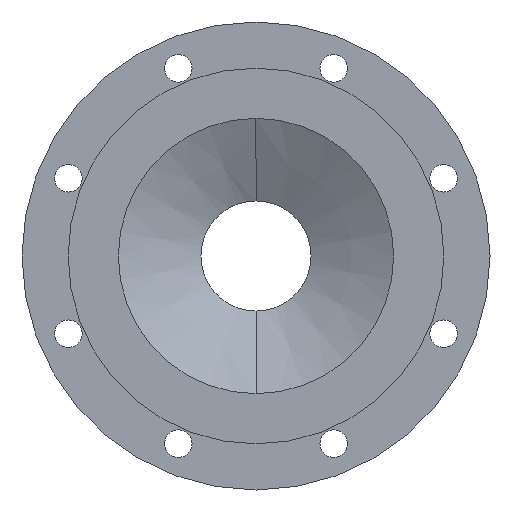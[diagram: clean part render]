
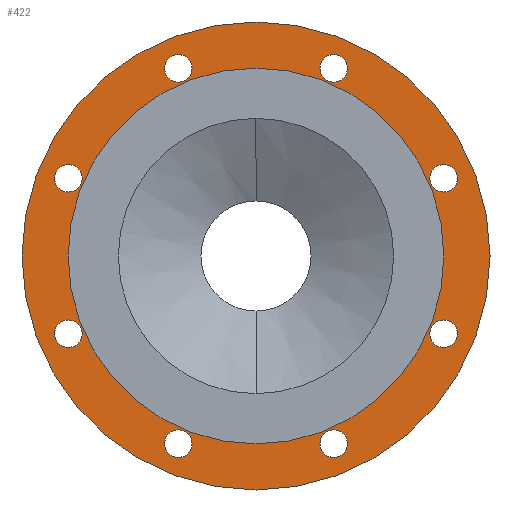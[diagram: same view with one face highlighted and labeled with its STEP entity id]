
A CAD part, left-side view. The second image highlights one B-rep face of the part: STEP entity #422.
In plain terms, the highlighted planar face has unit normal (-1, 0, 0).
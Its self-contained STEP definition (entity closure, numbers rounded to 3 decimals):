
#422=ADVANCED_FACE('',(#823,#824,#825,#826,#827,#828,#829,#830,#831,#832),#833,.F.);
#823=FACE_BOUND('',#1344,.T.);
#824=FACE_BOUND('',#1345,.T.);
#825=FACE_BOUND('',#1346,.T.);
#826=FACE_BOUND('',#1347,.T.);
#827=FACE_BOUND('',#1348,.T.);
#828=FACE_BOUND('',#1349,.T.);
#829=FACE_BOUND('',#1350,.T.);
#830=FACE_BOUND('',#1351,.T.);
#831=FACE_BOUND('',#1352,.T.);
#832=FACE_OUTER_BOUND('',#1353,.T.);
#833=PLANE('',#1354);
#1344=EDGE_LOOP('',(#1965,#1966));
#1345=EDGE_LOOP('',(#1967,#1968));
#1346=EDGE_LOOP('',(#1969,#1970));
#1347=EDGE_LOOP('',(#1971,#1972));
#1348=EDGE_LOOP('',(#1973,#1974));
#1349=EDGE_LOOP('',(#1975,#1976));
#1350=EDGE_LOOP('',(#1977,#1978));
#1351=EDGE_LOOP('',(#1979,#1980));
#1352=EDGE_LOOP('',(#1981,#1982));
#1353=EDGE_LOOP('',(#1983,#1984));
#1354=AXIS2_PLACEMENT_3D('',#1985,#1986,#1987);
#1965=ORIENTED_EDGE('',*,*,#2886,.T.);
#1966=ORIENTED_EDGE('',*,*,#2888,.T.);
#1967=ORIENTED_EDGE('',*,*,#2876,.T.);
#1968=ORIENTED_EDGE('',*,*,#2889,.T.);
#1969=ORIENTED_EDGE('',*,*,#2890,.T.);
#1970=ORIENTED_EDGE('',*,*,#2891,.T.);
#1971=ORIENTED_EDGE('',*,*,#2698,.T.);
#1972=ORIENTED_EDGE('',*,*,#2892,.T.);
#1973=ORIENTED_EDGE('',*,*,#2862,.T.);
#1974=ORIENTED_EDGE('',*,*,#2893,.T.);
#1975=ORIENTED_EDGE('',*,*,#2894,.T.);
#1976=ORIENTED_EDGE('',*,*,#2895,.T.);
#1977=ORIENTED_EDGE('',*,*,#2896,.T.);
#1978=ORIENTED_EDGE('',*,*,#2897,.T.);
#1979=ORIENTED_EDGE('',*,*,#2898,.T.);
#1980=ORIENTED_EDGE('',*,*,#2899,.T.);
#1981=ORIENTED_EDGE('',*,*,#2900,.T.);
#1982=ORIENTED_EDGE('',*,*,#2901,.T.);
#1983=ORIENTED_EDGE('',*,*,#2902,.F.);
#1984=ORIENTED_EDGE('',*,*,#2724,.F.);
#1985=CARTESIAN_POINT('',(1.0,0.0,0.));
#1986=DIRECTION('',(1.0,0.0,0.));
#1987=DIRECTION('',(0.,0.0,-1.0));
#2698=EDGE_CURVE('',#3111,#3115,#3117,.T.);
#2724=EDGE_CURVE('',#3161,#3156,#3163,.T.);
#2862=EDGE_CURVE('',#3384,#3388,#3390,.T.);
#2876=EDGE_CURVE('',#3406,#3410,#3412,.T.);
#2886=EDGE_CURVE('',#3422,#3426,#3428,.T.);
#2888=EDGE_CURVE('',#3426,#3422,#3430,.T.);
#2889=EDGE_CURVE('',#3410,#3406,#3431,.T.);
#2890=EDGE_CURVE('',#3432,#3433,#3434,.T.);
#2891=EDGE_CURVE('',#3433,#3432,#3435,.T.);
#2892=EDGE_CURVE('',#3115,#3111,#3436,.T.);
#2893=EDGE_CURVE('',#3388,#3384,#3437,.T.);
#2894=EDGE_CURVE('',#3438,#3439,#3440,.T.);
#2895=EDGE_CURVE('',#3439,#3438,#3441,.T.);
#2896=EDGE_CURVE('',#3442,#3443,#3444,.T.);
#2897=EDGE_CURVE('',#3443,#3442,#3445,.T.);
#2898=EDGE_CURVE('',#3446,#3447,#3448,.T.);
#2899=EDGE_CURVE('',#3447,#3446,#3449,.T.);
#2900=EDGE_CURVE('',#3450,#3451,#3452,.T.);
#2901=EDGE_CURVE('',#3451,#3450,#3453,.T.);
#2902=EDGE_CURVE('',#3156,#3161,#3454,.T.);
#3111=VERTEX_POINT('',#3706);
#3115=VERTEX_POINT('',#3711);
#3117=CIRCLE('',#3714,10.0);
#3156=VERTEX_POINT('',#3765);
#3161=VERTEX_POINT('',#3771);
#3163=CIRCLE('',#3774,170.0);
#3384=VERTEX_POINT('',#4067);
#3388=VERTEX_POINT('',#4072);
#3390=CIRCLE('',#4075,10.0);
#3406=VERTEX_POINT('',#4095);
#3410=VERTEX_POINT('',#4100);
#3412=CIRCLE('',#4103,10.0);
#3422=VERTEX_POINT('',#4116);
#3426=VERTEX_POINT('',#4121);
#3428=CIRCLE('',#4124,10.0);
#3430=CIRCLE('',#4126,10.0);
#3431=CIRCLE('',#4127,10.0);
#3432=VERTEX_POINT('',#4128);
#3433=VERTEX_POINT('',#4129);
#3434=CIRCLE('',#4130,10.0);
#3435=CIRCLE('',#4131,10.0);
#3436=CIRCLE('',#4132,10.0);
#3437=CIRCLE('',#4133,10.0);
#3438=VERTEX_POINT('',#4134);
#3439=VERTEX_POINT('',#4135);
#3440=CIRCLE('',#4136,10.0);
#3441=CIRCLE('',#4137,10.0);
#3442=VERTEX_POINT('',#4138);
#3443=VERTEX_POINT('',#4139);
#3444=CIRCLE('',#4140,10.0);
#3445=CIRCLE('',#4141,10.0);
#3446=VERTEX_POINT('',#4142);
#3447=VERTEX_POINT('',#4143);
#3448=CIRCLE('',#4144,10.0);
#3449=CIRCLE('',#4145,10.0);
#3450=VERTEX_POINT('',#4146);
#3451=VERTEX_POINT('',#4147);
#3452=CIRCLE('',#4148,136.5);
#3453=CIRCLE('',#4149,136.5);
#3454=CIRCLE('',#4150,170.0);
#3706=CARTESIAN_POINT('',(1.0,-56.446,126.272));
#3711=CARTESIAN_POINT('',(1.,-56.446,146.272));
#3714=AXIS2_PLACEMENT_3D('',#4490,#4491,#4492);
#3765=CARTESIAN_POINT('',(1.,0.0,-170.0));
#3771=CARTESIAN_POINT('',(1.,0.,170.0));
#3774=AXIS2_PLACEMENT_3D('',#4522,#4523,#4524);
#4067=CARTESIAN_POINT('',(1.0,136.272,46.446));
#4072=CARTESIAN_POINT('',(1.,136.272,66.446));
#4075=AXIS2_PLACEMENT_3D('',#4680,#4681,#4682);
#4095=CARTESIAN_POINT('',(1.0,56.446,-146.272));
#4100=CARTESIAN_POINT('',(1.,56.446,-126.272));
#4103=AXIS2_PLACEMENT_3D('',#4698,#4699,#4700);
#4116=CARTESIAN_POINT('',(1.0,136.272,-66.446));
#4121=CARTESIAN_POINT('',(1.0,136.272,-46.446));
#4124=AXIS2_PLACEMENT_3D('',#4709,#4710,#4711);
#4126=AXIS2_PLACEMENT_3D('',#4712,#4713,#4714);
#4127=AXIS2_PLACEMENT_3D('',#4715,#4716,#4717);
#4128=CARTESIAN_POINT('',(1.0,-136.272,46.446));
#4129=CARTESIAN_POINT('',(1.,-136.272,66.446));
#4130=AXIS2_PLACEMENT_3D('',#4718,#4719,#4720);
#4131=AXIS2_PLACEMENT_3D('',#4721,#4722,#4723);
#4132=AXIS2_PLACEMENT_3D('',#4724,#4725,#4726);
#4133=AXIS2_PLACEMENT_3D('',#4727,#4728,#4729);
#4134=CARTESIAN_POINT('',(1.0,56.446,126.272));
#4135=CARTESIAN_POINT('',(1.,56.446,146.272));
#4136=AXIS2_PLACEMENT_3D('',#4730,#4731,#4732);
#4137=AXIS2_PLACEMENT_3D('',#4733,#4734,#4735);
#4138=CARTESIAN_POINT('',(1.0,-136.272,-66.446));
#4139=CARTESIAN_POINT('',(1.0,-136.272,-46.446));
#4140=AXIS2_PLACEMENT_3D('',#4736,#4737,#4738);
#4141=AXIS2_PLACEMENT_3D('',#4739,#4740,#4741);
#4142=CARTESIAN_POINT('',(1.0,-56.446,-146.272));
#4143=CARTESIAN_POINT('',(1.,-56.446,-126.272));
#4144=AXIS2_PLACEMENT_3D('',#4742,#4743,#4744);
#4145=AXIS2_PLACEMENT_3D('',#4745,#4746,#4747);
#4146=CARTESIAN_POINT('',(1.,0.0,-136.5));
#4147=CARTESIAN_POINT('',(1.,0.,136.5));
#4148=AXIS2_PLACEMENT_3D('',#4748,#4749,#4750);
#4149=AXIS2_PLACEMENT_3D('',#4751,#4752,#4753);
#4150=AXIS2_PLACEMENT_3D('',#4754,#4755,#4756);
#4490=CARTESIAN_POINT('',(1.,-56.446,136.272));
#4491=DIRECTION('',(1.0,0.0,0.));
#4492=DIRECTION('',(0.,0.0,-1.0));
#4522=CARTESIAN_POINT('',(1.0,0.0,0.));
#4523=DIRECTION('',(1.0,0.0,0.));
#4524=DIRECTION('',(0.,0.0,-1.0));
#4680=CARTESIAN_POINT('',(1.,136.272,56.446));
#4681=DIRECTION('',(1.0,0.0,0.));
#4682=DIRECTION('',(0.,0.0,-1.0));
#4698=CARTESIAN_POINT('',(1.,56.446,-136.272));
#4699=DIRECTION('',(1.0,0.0,0.));
#4700=DIRECTION('',(0.,0.0,-1.0));
#4709=CARTESIAN_POINT('',(1.0,136.272,-56.446));
#4710=DIRECTION('',(1.0,0.0,0.));
#4711=DIRECTION('',(0.,0.0,-1.0));
#4712=CARTESIAN_POINT('',(1.0,136.272,-56.446));
#4713=DIRECTION('',(1.0,0.0,0.));
#4714=DIRECTION('',(0.,0.0,-1.0));
#4715=CARTESIAN_POINT('',(1.,56.446,-136.272));
#4716=DIRECTION('',(1.0,0.0,0.));
#4717=DIRECTION('',(0.,0.0,-1.0));
#4718=CARTESIAN_POINT('',(1.,-136.272,56.446));
#4719=DIRECTION('',(1.0,0.0,0.));
#4720=DIRECTION('',(0.,0.0,-1.0));
#4721=CARTESIAN_POINT('',(1.,-136.272,56.446));
#4722=DIRECTION('',(1.0,0.0,0.));
#4723=DIRECTION('',(0.,0.0,-1.0));
#4724=CARTESIAN_POINT('',(1.,-56.446,136.272));
#4725=DIRECTION('',(1.0,0.0,0.));
#4726=DIRECTION('',(0.,0.0,-1.0));
#4727=CARTESIAN_POINT('',(1.,136.272,56.446));
#4728=DIRECTION('',(1.0,0.0,0.));
#4729=DIRECTION('',(0.,0.0,-1.0));
#4730=CARTESIAN_POINT('',(1.,56.446,136.272));
#4731=DIRECTION('',(1.0,0.0,0.));
#4732=DIRECTION('',(0.,0.0,-1.0));
#4733=CARTESIAN_POINT('',(1.,56.446,136.272));
#4734=DIRECTION('',(1.0,0.0,0.));
#4735=DIRECTION('',(0.,0.0,-1.0));
#4736=CARTESIAN_POINT('',(1.0,-136.272,-56.446));
#4737=DIRECTION('',(1.0,0.0,0.));
#4738=DIRECTION('',(0.,0.0,-1.0));
#4739=CARTESIAN_POINT('',(1.0,-136.272,-56.446));
#4740=DIRECTION('',(1.0,0.0,0.));
#4741=DIRECTION('',(0.,0.0,-1.0));
#4742=CARTESIAN_POINT('',(1.,-56.446,-136.272));
#4743=DIRECTION('',(1.0,0.0,0.));
#4744=DIRECTION('',(0.,0.0,-1.0));
#4745=CARTESIAN_POINT('',(1.,-56.446,-136.272));
#4746=DIRECTION('',(1.0,0.0,0.));
#4747=DIRECTION('',(0.,0.0,-1.0));
#4748=CARTESIAN_POINT('',(1.0,0.0,0.));
#4749=DIRECTION('',(1.0,0.0,0.));
#4750=DIRECTION('',(0.,0.0,-1.0));
#4751=CARTESIAN_POINT('',(1.0,0.0,0.));
#4752=DIRECTION('',(1.0,0.0,0.));
#4753=DIRECTION('',(0.,0.0,-1.0));
#4754=CARTESIAN_POINT('',(1.0,0.0,0.));
#4755=DIRECTION('',(1.0,0.0,0.));
#4756=DIRECTION('',(0.,0.0,-1.0));
